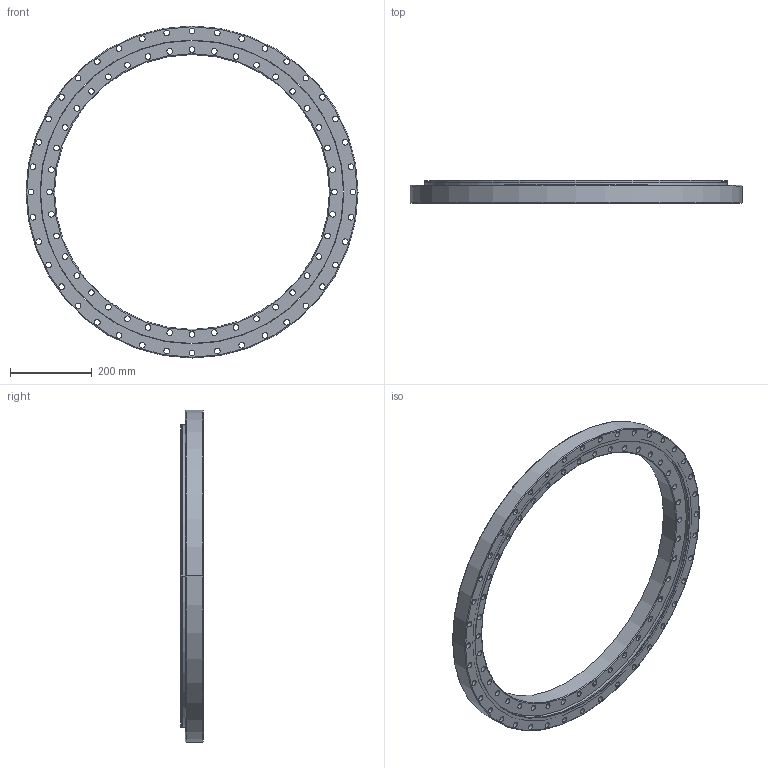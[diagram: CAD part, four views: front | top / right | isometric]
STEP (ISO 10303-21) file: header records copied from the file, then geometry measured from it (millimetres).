
FILE_DESCRIPTION((''),'2;1');
FILE_NAME('XSU140744','2015-10-13T',('Administrator'),(''),'PRO/ENGINEER BY PARAMETRIC TECHNOLOGY CORPORATION, 2010180','PRO/ENGINEER BY PARAMETRIC TECHNOLOGY CORPORATION, 2010180','');
FILE_SCHEMA(('AUTOMOTIVE_DESIGN_CC2 { 1 2 10303 214 -1 1 5 2 }'));
Length unit declared in the file: millimetre
Products named in the file (1): XSU140744
Bounding box: 814 x 56 x 814 mm (x, y, z)
Volume: 6004872.9 mm3; surface area: 973597.3 mm2
Topology: 2 solids, 2 shells, 202 faces, 564 edges, 370 vertices
Faces by surface type: cylinder 180, plane 8, cone 8, torus 6
Entity records: 7050 total; most frequent: DIRECTION 1344, CARTESIAN_POINT 1136, ORIENTED_EDGE 1128, AXIS2_PLACEMENT_3D 578, EDGE_CURVE 564, CIRCLE 376, VERTEX_POINT 370, EDGE_LOOP 370
